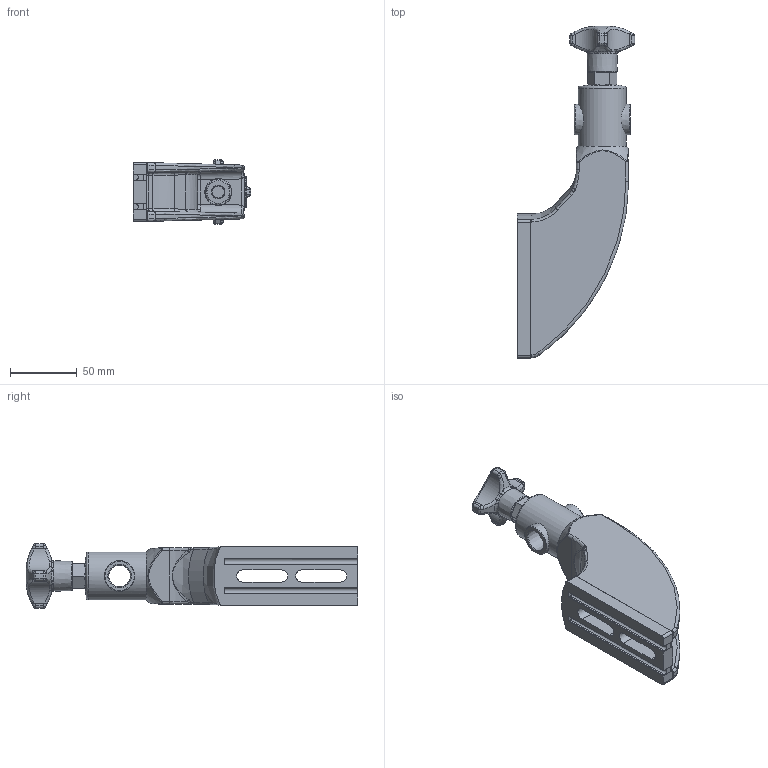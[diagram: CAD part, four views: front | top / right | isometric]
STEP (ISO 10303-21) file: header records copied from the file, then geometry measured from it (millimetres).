
FILE_DESCRIPTION(/* description */ ('Side guide bracket with knob GMB30'),/* implementation_level */ '2;1');
FILE_NAME(/* name */ 'C:\Users\apromt\Desktop\tekeningen\stp\SG1200040001.stp',/* time_stamp */ '2021-11-11T10:33:55+01:00',/* author */ ('Rdgreef'),/* organization */ ('BCK Holland b.v.'),/* preprocessor_version */ 'ST-DEVELOPER v18.1',/* originating_system */ 'Autodesk Inventor 2021',/* authorisation */ '');
FILE_SCHEMA (('AUTOMOTIVE_DESIGN { 1 0 10303 214 3 1 1 }'));
Length unit declared in the file: millimetre
Products named in the file (1): SG1200040001
Bounding box: 87.74 x 247.87 x 48.48 mm (x, y, z)
Volume: 195413.2 mm3; surface area: 69984.6 mm2
Topology: 1 solids, 4 shells, 608 faces, 1681 edges, 1043 vertices
Faces by surface type: plane 321, bspline 105, cylinder 77, cone 44, torus 38, sphere 23
Full cylindrical faces by diameter (mm): 8.6 x1, 10 x3, 10.5 x2, 10.9 x1, 11 x1, 14.3 x1, 16.5 x1, 20 x1, 29.6 x1, 30 x1, 30.3 x1, 30.5 x1, 35.8 x1
Entity records: 29249 total; most frequent: CARTESIAN_POINT 14681, ORIENTED_EDGE 3338, DIRECTION 2620, EDGE_CURVE 1669, AXIS2_PLACEMENT_3D 1083, VERTEX_POINT 1043, EDGE_LOOP 678, FACE_OUTER_BOUND 608
